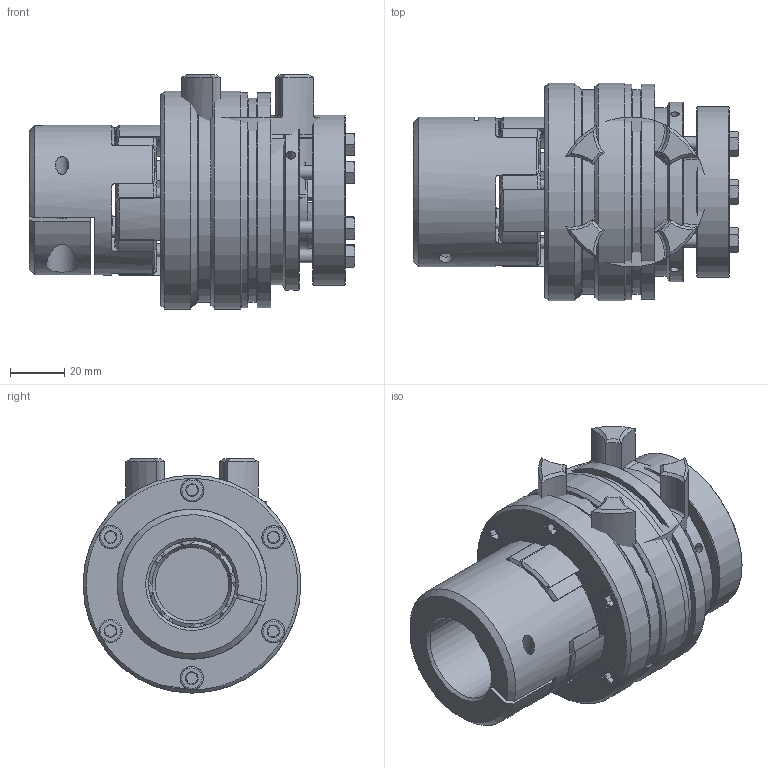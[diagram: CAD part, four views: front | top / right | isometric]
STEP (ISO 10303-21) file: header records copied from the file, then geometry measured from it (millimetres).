
FILE_DESCRIPTION( ( 'Unknown' ), '1' );
FILE_NAME( 'C:/Dokumente und Einstellungen/Sven/Desktop/hp kbk/E-KA/KBK EKA-24-108.stp', 'Unknown', ( 'Unknown' ), ( 'Unknown' ), 'XStep 1.0', 'Unknown', ' ' );
FILE_SCHEMA( ( 'automotive_design' ) );
Length unit declared in the file: millimetre
Products named in the file (17): Assem1; Assem2; ball_bearing_-_6007_0_01; ball_bearing_-_6007_0_02; ball_bearing_-_6007_0_03; Stellring 60; Druckring 60; Flansch 60; a_35; Elastomerflansch 24; Zahnkranz_24_Standard; ISO EN DIN 4762_M5x20; KBE 2 - 24_Nabe; schraube_iso_7380-m6x16-12_9_2; KBK L-A-60 Grundkörper; Druckring L-A-60; din_en_24017_m5x20
Bounding box: 119.35 x 80 x 86 mm (x, y, z)
Volume: 616271.3 mm3; surface area: 256210 mm2
Topology: 43 solids, 43 shells, 1136 faces, 2506 edges, 1545 vertices
Faces by surface type: plane 375, cone 367, cylinder 324, torus 68, bspline 2
Full cylindrical faces by diameter (mm): 2.5 x4, 3.242 x6, 4 x22, 4.134 x24, 5 x16, 5.2 x12, 5.5 x12, 6 x2, 6.5 x2, 6.88 x7, 8.5 x19, 11.4 x2, 15 x2, 27 x4, 30 x2, 32 x2, 33 x2, 35 x7, 35.937 x2, 43.7 x6, 44 x2, 46 x4, 46.5 x2, 53.6 x6, 55 x4, 61.3 x2, 62 x7, 62.5 x2, 66 x2, 75 x4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
Entity records: 12977 total; most frequent: CARTESIAN_POINT 3090, DIRECTION 2130, ORIENTED_EDGE 1692, AXIS2_PLACEMENT_3D 987, EDGE_CURVE 846, EDGE_LOOP 668, VERTEX_POINT 587, FACE_OUTER_BOUND 549
